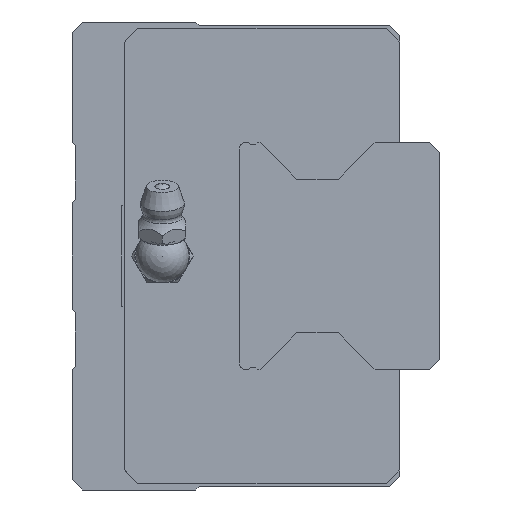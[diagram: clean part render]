
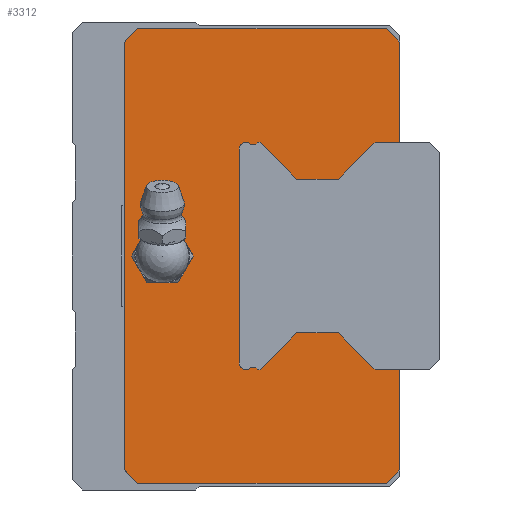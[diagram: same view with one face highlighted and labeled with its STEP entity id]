
A CAD part, left-side view. The second image highlights one B-rep face of the part: STEP entity #3312.
In plain terms, the highlighted planar face has unit normal (-1, 0, 0).
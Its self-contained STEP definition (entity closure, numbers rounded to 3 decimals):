
#169=CIRCLE('',#3588,3.);
#170=CIRCLE('',#3589,1.);
#171=CIRCLE('',#3590,1.);
#580=ORIENTED_EDGE('',*,*,#1342,.T.);
#581=ORIENTED_EDGE('',*,*,#1343,.T.);
#582=ORIENTED_EDGE('',*,*,#1336,.F.);
#583=ORIENTED_EDGE('',*,*,#1310,.F.);
#584=ORIENTED_EDGE('',*,*,#1306,.F.);
#585=ORIENTED_EDGE('',*,*,#1298,.F.);
#586=ORIENTED_EDGE('',*,*,#1328,.F.);
#587=ORIENTED_EDGE('',*,*,#1284,.F.);
#588=ORIENTED_EDGE('',*,*,#1321,.F.);
#589=ORIENTED_EDGE('',*,*,#1318,.F.);
#590=ORIENTED_EDGE('',*,*,#1338,.F.);
#591=ORIENTED_EDGE('',*,*,#1344,.T.);
#592=ORIENTED_EDGE('',*,*,#1345,.T.);
#593=ORIENTED_EDGE('',*,*,#1346,.T.);
#594=ORIENTED_EDGE('',*,*,#1347,.T.);
#595=ORIENTED_EDGE('',*,*,#1348,.T.);
#596=ORIENTED_EDGE('',*,*,#1349,.T.);
#597=ORIENTED_EDGE('',*,*,#1350,.T.);
#598=ORIENTED_EDGE('',*,*,#1351,.T.);
#599=ORIENTED_EDGE('',*,*,#1352,.T.);
#600=ORIENTED_EDGE('',*,*,#1353,.T.);
#601=ORIENTED_EDGE('',*,*,#1354,.T.);
#602=ORIENTED_EDGE('',*,*,#1355,.T.);
#603=ORIENTED_EDGE('',*,*,#1356,.T.);
#604=ORIENTED_EDGE('',*,*,#1357,.T.);
#605=ORIENTED_EDGE('',*,*,#1358,.T.);
#606=ORIENTED_EDGE('',*,*,#1359,.T.);
#1284=EDGE_CURVE('',#1696,#1697,#2019,.T.);
#1298=EDGE_CURVE('',#1709,#1710,#2033,.T.);
#1306=EDGE_CURVE('',#1710,#1716,#2040,.T.);
#1310=EDGE_CURVE('',#1716,#1718,#2044,.T.);
#1318=EDGE_CURVE('',#1725,#1726,#2052,.T.);
#1321=EDGE_CURVE('',#1726,#1696,#2055,.T.);
#1328=EDGE_CURVE('',#1697,#1709,#2061,.T.);
#1336=EDGE_CURVE('',#1718,#1731,#2069,.T.);
#1338=EDGE_CURVE('',#1733,#1725,#2071,.T.);
#1342=EDGE_CURVE('',#1736,#1736,#169,.T.);
#1343=EDGE_CURVE('',#1737,#1731,#2075,.T.);
#1344=EDGE_CURVE('',#1733,#1738,#2076,.T.);
#1345=EDGE_CURVE('',#1738,#1739,#2077,.T.);
#1346=EDGE_CURVE('',#1739,#1740,#2078,.T.);
#1347=EDGE_CURVE('',#1740,#1741,#2079,.T.);
#1348=EDGE_CURVE('',#1741,#1742,#2080,.T.);
#1349=EDGE_CURVE('',#1742,#1743,#2081,.T.);
#1350=EDGE_CURVE('',#1743,#1744,#2082,.T.);
#1351=EDGE_CURVE('',#1744,#1745,#170,.T.);
#1352=EDGE_CURVE('',#1745,#1746,#2083,.T.);
#1353=EDGE_CURVE('',#1746,#1747,#171,.T.);
#1354=EDGE_CURVE('',#1747,#1748,#2084,.T.);
#1355=EDGE_CURVE('',#1748,#1749,#2085,.T.);
#1356=EDGE_CURVE('',#1749,#1750,#2086,.T.);
#1357=EDGE_CURVE('',#1750,#1751,#2087,.T.);
#1358=EDGE_CURVE('',#1751,#1752,#2088,.T.);
#1359=EDGE_CURVE('',#1752,#1737,#2089,.T.);
#1696=VERTEX_POINT('',#5070);
#1697=VERTEX_POINT('',#5072);
#1709=VERTEX_POINT('',#5098);
#1710=VERTEX_POINT('',#5100);
#1716=VERTEX_POINT('',#5116);
#1718=VERTEX_POINT('',#5123);
#1725=VERTEX_POINT('',#5138);
#1726=VERTEX_POINT('',#5140);
#1731=VERTEX_POINT('',#5165);
#1733=VERTEX_POINT('',#5173);
#1736=VERTEX_POINT('',#5182);
#1737=VERTEX_POINT('',#5184);
#1738=VERTEX_POINT('',#5186);
#1739=VERTEX_POINT('',#5188);
#1740=VERTEX_POINT('',#5190);
#1741=VERTEX_POINT('',#5192);
#1742=VERTEX_POINT('',#5194);
#1743=VERTEX_POINT('',#5196);
#1744=VERTEX_POINT('',#5198);
#1745=VERTEX_POINT('',#5200);
#1746=VERTEX_POINT('',#5202);
#1747=VERTEX_POINT('',#5204);
#1748=VERTEX_POINT('',#5206);
#1749=VERTEX_POINT('',#5208);
#1750=VERTEX_POINT('',#5210);
#1751=VERTEX_POINT('',#5212);
#1752=VERTEX_POINT('',#5214);
#2019=LINE('',#5071,#2343);
#2033=LINE('',#5099,#2357);
#2040=LINE('',#5115,#2364);
#2044=LINE('',#5122,#2368);
#2052=LINE('',#5139,#2376);
#2055=LINE('',#5144,#2379);
#2061=LINE('',#5155,#2385);
#2069=LINE('',#5170,#2393);
#2071=LINE('',#5175,#2395);
#2075=LINE('',#5183,#2399);
#2076=LINE('',#5185,#2400);
#2077=LINE('',#5187,#2401);
#2078=LINE('',#5189,#2402);
#2079=LINE('',#5191,#2403);
#2080=LINE('',#5193,#2404);
#2081=LINE('',#5195,#2405);
#2082=LINE('',#5197,#2406);
#2083=LINE('',#5201,#2407);
#2084=LINE('',#5205,#2408);
#2085=LINE('',#5207,#2409);
#2086=LINE('',#5209,#2410);
#2087=LINE('',#5211,#2411);
#2088=LINE('',#5213,#2412);
#2089=LINE('',#5215,#2413);
#2343=VECTOR('',#4100,1000.);
#2357=VECTOR('',#4116,1000.);
#2364=VECTOR('',#4129,1000.);
#2368=VECTOR('',#4135,1000.);
#2376=VECTOR('',#4145,1000.);
#2379=VECTOR('',#4150,1000.);
#2385=VECTOR('',#4164,1000.);
#2393=VECTOR('',#4176,1000.);
#2395=VECTOR('',#4180,1000.);
#2399=VECTOR('',#4188,1000.);
#2400=VECTOR('',#4189,1000.);
#2401=VECTOR('',#4190,1000.);
#2402=VECTOR('',#4191,1000.);
#2403=VECTOR('',#4192,1000.);
#2404=VECTOR('',#4193,1000.);
#2405=VECTOR('',#4194,1000.);
#2406=VECTOR('',#4195,1000.);
#2407=VECTOR('',#4198,1000.);
#2408=VECTOR('',#4201,1000.);
#2409=VECTOR('',#4202,1000.);
#2410=VECTOR('',#4203,1000.);
#2411=VECTOR('',#4204,1000.);
#2412=VECTOR('',#4205,1000.);
#2413=VECTOR('',#4206,1000.);
#2640=EDGE_LOOP('',(#580));
#2641=EDGE_LOOP('',(#581,#582,#583,#584,#585,#586,#587,#588,#589,#590,#591,
#592,#593,#594,#595,#596,#597,#598,#599,#600,#601,#602,#603,#604,#605,#606));
#2923=FACE_BOUND('',#2640,.T.);
#2924=FACE_BOUND('',#2641,.T.);
#3159=PLANE('',#3587);
#3312=ADVANCED_FACE('',(#2923,#2924),#3159,.F.);
#3587=AXIS2_PLACEMENT_3D('',#5180,#4184,#4185);
#3588=AXIS2_PLACEMENT_3D('',#5181,#4186,#4187);
#3589=AXIS2_PLACEMENT_3D('',#5199,#4196,#4197);
#3590=AXIS2_PLACEMENT_3D('',#5203,#4199,#4200);
#4100=DIRECTION('',(0.,0.707,0.707));
#4116=DIRECTION('',(0.,-0.707,0.707));
#4129=DIRECTION('',(0.,-1.,0.));
#4135=DIRECTION('',(0.,-0.707,-0.707));
#4145=DIRECTION('',(0.,0.707,-0.707));
#4150=DIRECTION('',(0.,1.,0.));
#4164=DIRECTION('',(0.,0.,1.));
#4176=DIRECTION('',(0.,0.,-1.));
#4180=DIRECTION('',(0.,0.,-1.));
#4184=DIRECTION('',(1.,0.,0.));
#4185=DIRECTION('',(0.,0.,-1.));
#4186=DIRECTION('',(1.,0.,0.));
#4187=DIRECTION('',(0.,0.,-1.));
#4188=DIRECTION('',(0.,-1.,0.));
#4189=DIRECTION('',(0.,1.,0.));
#4190=DIRECTION('',(0.,0.707,0.707));
#4191=DIRECTION('',(0.,1.,0.));
#4192=DIRECTION('',(0.,0.707,-0.707));
#4193=DIRECTION('',(0.,1.,0.));
#4194=DIRECTION('',(0.,0.707,0.707));
#4195=DIRECTION('',(0.,1.,0.));
#4196=DIRECTION('',(1.,0.,0.));
#4197=DIRECTION('',(0.,0.,-1.));
#4198=DIRECTION('',(0.,0.,1.));
#4199=DIRECTION('',(1.,0.,0.));
#4200=DIRECTION('',(0.,0.,-1.));
#4201=DIRECTION('',(0.,-1.,0.));
#4202=DIRECTION('',(0.,-0.707,0.707));
#4203=DIRECTION('',(0.,-1.,0.));
#4204=DIRECTION('',(0.,-0.707,-0.707));
#4205=DIRECTION('',(0.,-1.,0.));
#4206=DIRECTION('',(0.,-0.707,0.707));
#5070=CARTESIAN_POINT('',(-62.5,39.2,-34.));
#5071=CARTESIAN_POINT('',(-62.5,39.2,-34.));
#5072=CARTESIAN_POINT('',(-62.5,41.2,-32.));
#5098=CARTESIAN_POINT('',(-62.5,41.2,32.));
#5099=CARTESIAN_POINT('',(-62.5,41.2,32.));
#5100=CARTESIAN_POINT('',(-62.5,39.2,34.));
#5115=CARTESIAN_POINT('',(-62.5,39.2,34.));
#5116=CARTESIAN_POINT('',(-62.5,2.,34.));
#5122=CARTESIAN_POINT('',(-62.5,2.,34.));
#5123=CARTESIAN_POINT('',(-62.5,0.,32.));
#5138=CARTESIAN_POINT('',(-62.5,0.,-32.));
#5139=CARTESIAN_POINT('',(-62.5,0.,-32.));
#5140=CARTESIAN_POINT('',(-62.5,2.,-34.));
#5144=CARTESIAN_POINT('',(-62.5,2.,-34.));
#5155=CARTESIAN_POINT('',(-62.5,41.2,-32.));
#5165=CARTESIAN_POINT('',(-62.5,0.,17.));
#5170=CARTESIAN_POINT('',(-62.5,0.,32.));
#5173=CARTESIAN_POINT('',(-62.5,0.,-17.));
#5175=CARTESIAN_POINT('',(-62.5,0.,32.));
#5180=CARTESIAN_POINT('',(-62.5,0.,0.));
#5181=CARTESIAN_POINT('',(-62.5,35.5,0.));
#5182=CARTESIAN_POINT('',(-62.5,35.5,-3.));
#5183=CARTESIAN_POINT('',(-62.5,3.7,17.));
#5184=CARTESIAN_POINT('',(-62.5,3.7,17.));
#5185=CARTESIAN_POINT('',(-62.5,-4.5,-17.));
#5186=CARTESIAN_POINT('',(-62.5,3.7,-17.));
#5187=CARTESIAN_POINT('',(-62.5,3.7,-17.));
#5188=CARTESIAN_POINT('',(-62.5,9.2,-11.5));
#5189=CARTESIAN_POINT('',(-62.5,9.2,-11.5));
#5190=CARTESIAN_POINT('',(-62.5,15.4,-11.5));
#5191=CARTESIAN_POINT('',(-62.5,15.4,-11.5));
#5192=CARTESIAN_POINT('',(-62.5,20.9,-17.));
#5193=CARTESIAN_POINT('',(-62.5,20.9,-17.));
#5194=CARTESIAN_POINT('',(-62.5,21.25,-17.));
#5195=CARTESIAN_POINT('',(-62.5,21.25,-17.));
#5196=CARTESIAN_POINT('',(-62.5,21.5,-16.75));
#5197=CARTESIAN_POINT('',(-62.5,21.5,-16.75));
#5198=CARTESIAN_POINT('',(-62.5,22.339,-16.75));
#5199=CARTESIAN_POINT('',(-62.5,23.,-16.));
#5200=CARTESIAN_POINT('',(-62.5,24.,-16.));
#5201=CARTESIAN_POINT('',(-62.5,24.,-16.));
#5202=CARTESIAN_POINT('',(-62.5,24.,16.));
#5203=CARTESIAN_POINT('',(-62.5,23.,16.));
#5204=CARTESIAN_POINT('',(-62.5,22.339,16.75));
#5205=CARTESIAN_POINT('',(-62.5,22.339,16.75));
#5206=CARTESIAN_POINT('',(-62.5,21.5,16.75));
#5207=CARTESIAN_POINT('',(-62.5,21.5,16.75));
#5208=CARTESIAN_POINT('',(-62.5,21.25,17.));
#5209=CARTESIAN_POINT('',(-62.5,21.25,17.));
#5210=CARTESIAN_POINT('',(-62.5,20.9,17.));
#5211=CARTESIAN_POINT('',(-62.5,20.9,17.));
#5212=CARTESIAN_POINT('',(-62.5,15.4,11.5));
#5213=CARTESIAN_POINT('',(-62.5,15.4,11.5));
#5214=CARTESIAN_POINT('',(-62.5,9.2,11.5));
#5215=CARTESIAN_POINT('',(-62.5,9.2,11.5));
